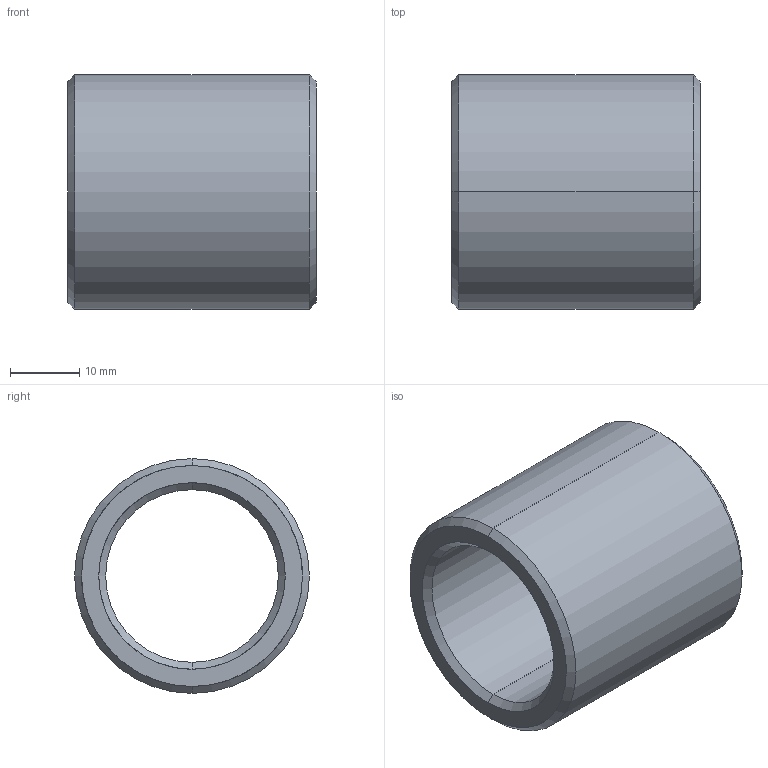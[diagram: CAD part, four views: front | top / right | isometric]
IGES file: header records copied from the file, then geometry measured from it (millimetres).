
Start section: START RECORD GO HERE.
Global section: file name: 352-25X36.igs; native system: DASSAULT SYSTEMES CATIA V5 R20 - www.3ds.com; preprocessor: CATIA Version 5 Release 20 ; author: Utente; organization: NB04-ASUS; date: 20210415.081220; units: millimetre
Bounding box: 36 x 34 x 34 mm (x, y, z)
Surface area: 7301.1 mm2 (no closed solid volume)
Topology: 0 solids, 0 shells, 14 faces, 88 edges, 88 vertices
Faces by surface type: revolution 12, plane 2
